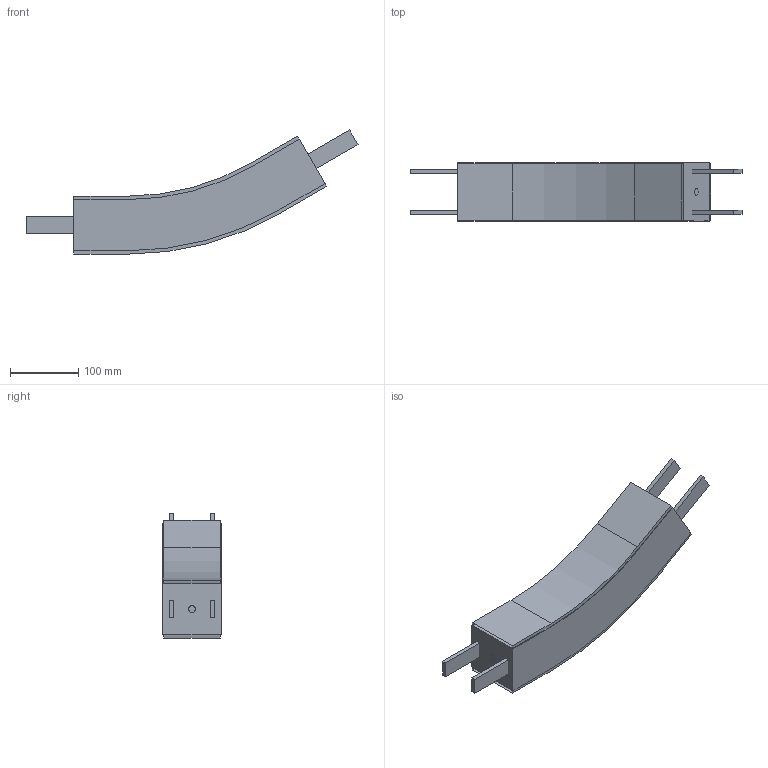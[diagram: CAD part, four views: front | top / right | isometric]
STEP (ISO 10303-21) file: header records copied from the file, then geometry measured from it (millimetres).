
FILE_DESCRIPTION(/* description */ ('Vertikaler Gleitbogen, 30°, R400'),/* implementation_level */ '2;1');
FILE_NAME(/* name */ 'T:\vdz0\Step Daten Website\modulflex FM-System\Vertikale Gleitbögen\FMBV 30R400_43836.stp',/* time_stamp */ '2024-09-03T10:38:40+02:00',/* author */ ('lzb0'),/* organization */ ('modular automation GmbH'),/* preprocessor_version */ 'ST-DEVELOPER v18.1',/* originating_system */ 'Autodesk Inventor 2021',/* authorisation */ '');
FILE_SCHEMA (('AUTOMOTIVE_DESIGN { 1 0 10303 214 3 1 1 }'));
Length unit declared in the file: millimetre
Products named in the file (1): FMBV 30R400
Bounding box: 486.15 x 85 x 181.92 mm (x, y, z)
Volume: 2439176.9 mm3; surface area: 297561.7 mm2
Topology: 5 solids, 9 shells, 52 faces, 126 edges, 84 vertices
Faces by surface type: plane 44, cylinder 8
Full cylindrical faces by diameter (mm): 10 x2
Entity records: 1598 total; most frequent: CARTESIAN_POINT 270, DIRECTION 250, ORIENTED_EDGE 232, EDGE_CURVE 126, LINE 110, VECTOR 110, VERTEX_POINT 84, AXIS2_PLACEMENT_3D 70
